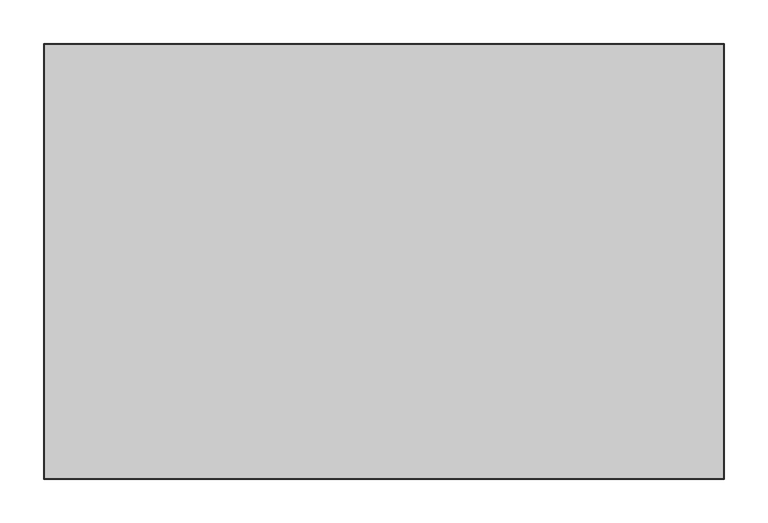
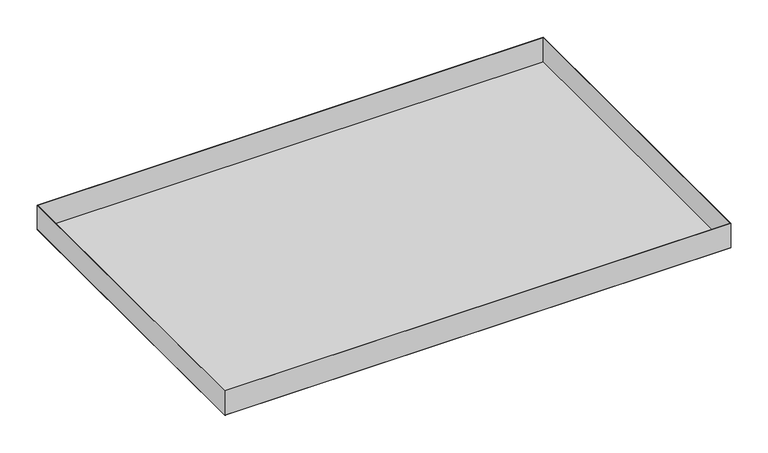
"""IFC4 building model written with IfcOpenShell, lengths in millimetres: proxy geometry, durlum_S-OM-40-RHOMBOS : durlum_S-OM-40-RHOMBOS_panel_wall_corner."""

from ifc_helpers import new_model, si_unit, frame, origin, origin_with_axes, place, context, project, spatial, polyline, outline, extrude, source, transform, mapped, element, save


def generic_models_5f7188fc(model_context):
    return source(origin(), model_context, "Body", "SweptSolid", [
        extrude(outline(polyline([(389.5, 249.5), (389.5, -249.5), (-389.5, -249.5), (-389.5, 249.5), (389.5, 249.5)]), holes=[polyline([(388.9, 248.9), (-388.9, 248.9), (-388.9, -248.9), (388.9, -248.9), (388.9, 248.9)])]), frame((0.0, 0.0, 0.6), z_axis=(0.0, 0.0, 1.0), x_axis=(1.0, 0.0, 0.0)), (0.0, 0.0, 1.0), 39.4),
        extrude(outline(polyline([(388.5, 248.5), (388.5, -248.5), (-388.5, -248.5), (-388.5, 248.5), (388.5, 248.5)])), frame((0.0, 0.0, 0.6), z_axis=(0.0, 0.0, 1.0), x_axis=(1.0, 0.0, 0.0)), (0.0, 0.0, 1.0), 0.6),
        extrude(outline(polyline([(389.5, 249.5), (389.5, -249.5), (-389.5, -249.5), (-389.5, 249.5), (389.5, 249.5)]), holes=[polyline([(388.5, 248.5), (-388.5, 248.5), (-388.5, -248.5), (388.5, -248.5), (388.5, 248.5)])]), origin_with_axes(), (0.0, 0.0, 1.0), 0.6),
        extrude(outline(polyline([(388.5, 248.5), (388.5, -248.5), (-388.5, -248.5), (-388.5, 248.5), (388.5, 248.5)])), origin_with_axes(), (0.0, 0.0, 1.0), 0.6),
    ])


if __name__ == "__main__":
    model = new_model("IFC4")
    model_context = context("Model", 3, world=origin())
    ifc_project = project(units=[si_unit("LENGTHUNIT", "METRE", prefix="MILLI")], contexts=[model_context])
    site = spatial("IfcSite", under=ifc_project)
    building = spatial("IfcBuilding", under=site)
    placement = place(None, origin())
    generic_models_shape = generic_models_5f7188fc(model_context)
    element("IfcBuildingElementProxy", 1, Name="durlum_S-OM-40-RHOMBOS : durlum_S-OM-40-RHOMBOS_panel_wall_corner", ObjectType="durlum_S-OM-40-RHOMBOS : durlum_S-OM-40-RHOMBOS_panel_wall_corner", at=placement, inside=building, context=model_context, shape_type="MappedRepresentation", body=[
        mapped(generic_models_shape, transform((0.0, 0.0, 0.0), x_axis=(1.0, 0.0, 0.0), y_axis=(0.0, 1.0, 0.0), z_axis=(0.0, 0.0, 1.0))),
    ])
    save(model, "model.ifc")
